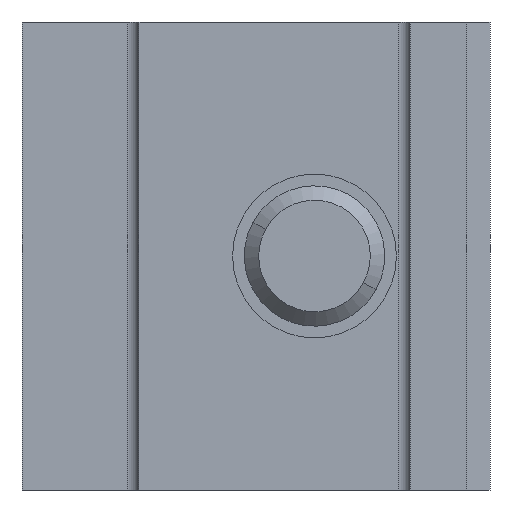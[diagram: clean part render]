
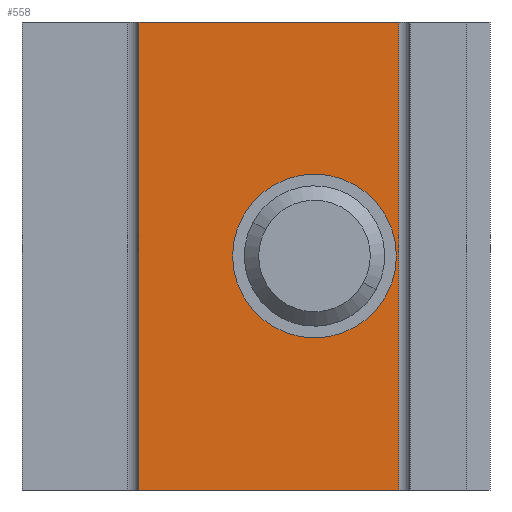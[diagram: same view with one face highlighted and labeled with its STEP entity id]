
A CAD part, front view. The second image highlights one B-rep face of the part: STEP entity #558.
In plain terms, the highlighted planar face has unit normal (0, -1, 0).
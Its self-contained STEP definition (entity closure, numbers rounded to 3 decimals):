
#527=AXIS2_PLACEMENT_3D('Plane Axis2P3D',#524,#525,#526) ;
#542=AXIS2_PLACEMENT_3D('Circle Axis2P3D',#540,#541,$) ;
#551=AXIS2_PLACEMENT_3D('Circle Axis2P3D',#549,#550,$) ;
#348=CARTESIAN_POINT('Vertex',(3.6,0.5,-10.)) ;
#351=CARTESIAN_POINT('Line Origine',(-1.95,0.5,-10.)) ;
#355=CARTESIAN_POINT('Vertex',(-7.5,0.5,-10.)) ;
#418=CARTESIAN_POINT('Vertex',(-7.5,0.5,10.)) ;
#421=CARTESIAN_POINT('Line Origine',(-1.95,0.5,10.)) ;
#425=CARTESIAN_POINT('Vertex',(3.6,0.5,10.)) ;
#512=CARTESIAN_POINT('Line Origine',(-7.5,0.5,0.)) ;
#524=CARTESIAN_POINT('Axis2P3D Location',(-7.5,0.5,0.)) ;
#529=CARTESIAN_POINT('Line Origine',(3.6,0.5,0.)) ;
#540=CARTESIAN_POINT('Axis2P3D Location',(0.,0.5,0.)) ;
#544=CARTESIAN_POINT('Vertex',(-3.5,0.5,0.)) ;
#546=CARTESIAN_POINT('Vertex',(3.5,0.5,0.)) ;
#549=CARTESIAN_POINT('Axis2P3D Location',(0.,0.5,0.)) ;
#352=DIRECTION('Vector Direction',(1.,0.,0.)) ;
#422=DIRECTION('Vector Direction',(1.,0.,0.)) ;
#513=DIRECTION('Vector Direction',(0.,0.,1.)) ;
#525=DIRECTION('Axis2P3D Direction',(0.,-1.,0.)) ;
#526=DIRECTION('Axis2P3D XDirection',(1.,0.,0.)) ;
#530=DIRECTION('Vector Direction',(0.,0.,1.)) ;
#541=DIRECTION('Axis2P3D Direction',(0.,-1.,0.)) ;
#550=DIRECTION('Axis2P3D Direction',(0.,-1.,0.)) ;
#353=VECTOR('Line Direction',#352,1.) ;
#423=VECTOR('Line Direction',#422,1.) ;
#514=VECTOR('Line Direction',#513,1.) ;
#531=VECTOR('Line Direction',#530,1.) ;
#535=ORIENTED_EDGE('',*,*,#516,.F.) ;
#536=ORIENTED_EDGE('',*,*,#357,.T.) ;
#537=ORIENTED_EDGE('',*,*,#533,.T.) ;
#538=ORIENTED_EDGE('',*,*,#427,.F.) ;
#555=ORIENTED_EDGE('',*,*,#548,.F.) ;
#556=ORIENTED_EDGE('',*,*,#553,.F.) ;
#557=FACE_BOUND('',#554,.T.) ;
#558=ADVANCED_FACE('PartBody',(#539,#557),#528,.T.) ;
#543=CIRCLE('generated circle',#542,3.5) ;
#552=CIRCLE('generated circle',#551,3.5) ;
#357=EDGE_CURVE('',#356,#349,#354,.T.) ;
#427=EDGE_CURVE('',#419,#426,#424,.T.) ;
#516=EDGE_CURVE('',#356,#419,#515,.T.) ;
#533=EDGE_CURVE('',#349,#426,#532,.T.) ;
#548=EDGE_CURVE('',#545,#547,#543,.T.) ;
#553=EDGE_CURVE('',#547,#545,#552,.T.) ;
#534=EDGE_LOOP('',(#535,#536,#537,#538)) ;
#554=EDGE_LOOP('',(#555,#556)) ;
#539=FACE_OUTER_BOUND('',#534,.T.) ;
#354=LINE('Line',#351,#353) ;
#424=LINE('Line',#421,#423) ;
#515=LINE('Line',#512,#514) ;
#532=LINE('Line',#529,#531) ;
#528=PLANE('',#527) ;
#349=VERTEX_POINT('',#348) ;
#356=VERTEX_POINT('',#355) ;
#419=VERTEX_POINT('',#418) ;
#426=VERTEX_POINT('',#425) ;
#545=VERTEX_POINT('',#544) ;
#547=VERTEX_POINT('',#546) ;
